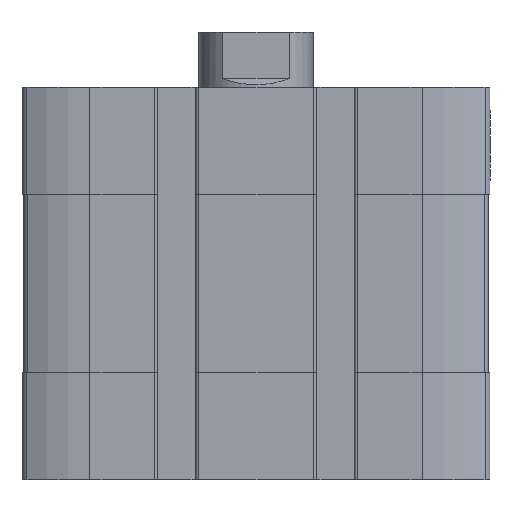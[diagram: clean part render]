
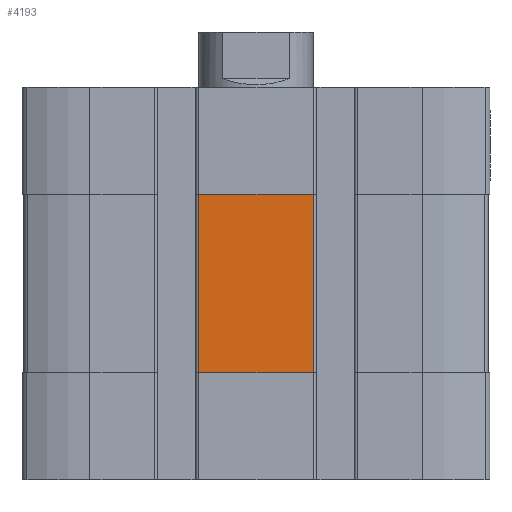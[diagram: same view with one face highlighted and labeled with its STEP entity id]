
A CAD part, front view. The second image highlights one B-rep face of the part: STEP entity #4193.
In plain terms, the highlighted planar face has unit normal (0, -1, 0).
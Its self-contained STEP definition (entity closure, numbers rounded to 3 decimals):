
#188 = CARTESIAN_POINT ( 'NONE',  ( -8., -32.5, -40. ) ) ;
#1234 = CARTESIAN_POINT ( 'NONE',  ( -8., -32.5, -40. ) ) ;
#1460 = PLANE ( 'NONE',  #9974 ) ;
#1929 = LINE ( 'NONE', #12178, #10953 ) ;
#3255 = VECTOR ( 'NONE', #11354, 1000. ) ;
#3298 = LINE ( 'NONE', #7585, #5684 ) ;
#3524 = ORIENTED_EDGE ( 'NONE', *, *, #8242, .T. ) ;
#3865 = DIRECTION ( 'NONE',  ( 0., 0., -1. ) ) ;
#4193 = ADVANCED_FACE ( 'NONE', ( #11455 ), #1460, .T. ) ;
#5684 = VECTOR ( 'NONE', #14565, 1000. ) ;
#5871 = LINE ( 'NONE', #188, #12115 ) ;
#6001 = LINE ( 'NONE', #12492, #3255 ) ;
#6651 = ORIENTED_EDGE ( 'NONE', *, *, #9200, .T. ) ;
#6915 = VERTEX_POINT ( 'NONE', #9517 ) ;
#7585 = CARTESIAN_POINT ( 'NONE',  ( -8., -32.5, -40. ) ) ;
#7631 = VERTEX_POINT ( 'NONE', #1234 ) ;
#7639 = ORIENTED_EDGE ( 'NONE', *, *, #10588, .T. ) ;
#7716 = ORIENTED_EDGE ( 'NONE', *, *, #10452, .T. ) ;
#8242 = EDGE_CURVE ( 'NONE', #7631, #6915, #5871, .T. ) ;
#9200 = EDGE_CURVE ( 'NONE', #9273, #7631, #3298, .T. ) ;
#9273 = VERTEX_POINT ( 'NONE', #11258 ) ;
#9517 = CARTESIAN_POINT ( 'NONE',  ( 8., -32.5, -40. ) ) ;
#9737 = CARTESIAN_POINT ( 'NONE',  ( -8., -32.5, -40. ) ) ;
#9974 = AXIS2_PLACEMENT_3D ( 'NONE', #9737, #10870, #3865 ) ;
#10452 = EDGE_CURVE ( 'NONE', #12154, #9273, #1929, .T. ) ;
#10588 = EDGE_CURVE ( 'NONE', #6915, #12154, #6001, .T. ) ;
#10870 = DIRECTION ( 'NONE',  ( 0., -1., 0. ) ) ;
#10953 = VECTOR ( 'NONE', #14546, 1000. ) ;
#11206 = EDGE_LOOP ( 'NONE', ( #3524, #7639, #7716, #6651 ) ) ;
#11258 = CARTESIAN_POINT ( 'NONE',  ( -8., -32.5, -15. ) ) ;
#11354 = DIRECTION ( 'NONE',  ( 0., 0., 1. ) ) ;
#11455 = FACE_OUTER_BOUND ( 'NONE', #11206, .T. ) ;
#11906 = DIRECTION ( 'NONE',  ( 1., 0., 0. ) ) ;
#12115 = VECTOR ( 'NONE', #11906, 1000. ) ;
#12154 = VERTEX_POINT ( 'NONE', #13489 ) ;
#12178 = CARTESIAN_POINT ( 'NONE',  ( 0., -32.5, -15. ) ) ;
#12492 = CARTESIAN_POINT ( 'NONE',  ( 8., -32.5, -40. ) ) ;
#13489 = CARTESIAN_POINT ( 'NONE',  ( 8., -32.5, -15. ) ) ;
#14546 = DIRECTION ( 'NONE',  ( -1., 0., 0. ) ) ;
#14565 = DIRECTION ( 'NONE',  ( 0., 0., -1. ) ) ;
